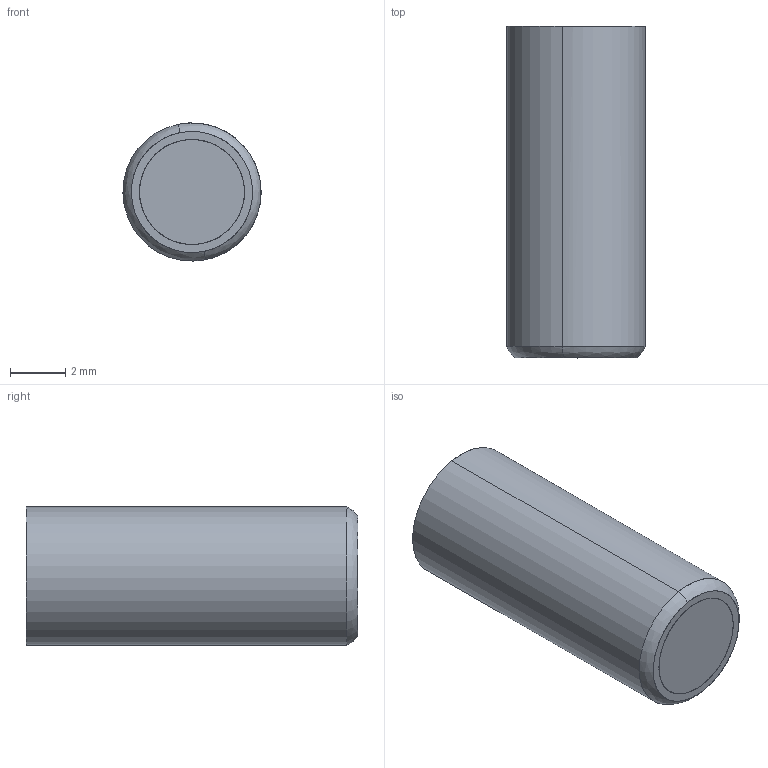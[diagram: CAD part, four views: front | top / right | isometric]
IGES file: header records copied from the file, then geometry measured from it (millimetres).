
Start section: START RECORD GO HERE.
Global section: file name: fa053004-21.igs; native system: DASSAULT SYSTEMES CATIA V5 R20 - www.3ds.com; preprocessor: CATIA Version 5 Release 20 ; author: Utente; organization: NB04-ASUS; date: 20201108.083936; units: millimetre
Bounding box: 5 x 12 x 5 mm (x, y, z)
Surface area: 598.4 mm2 (no closed solid volume)
Topology: 0 solids, 0 shells, 373 faces, 1682 edges, 1682 vertices
Faces by surface type: bspline 241, plane 80, revolution 52
